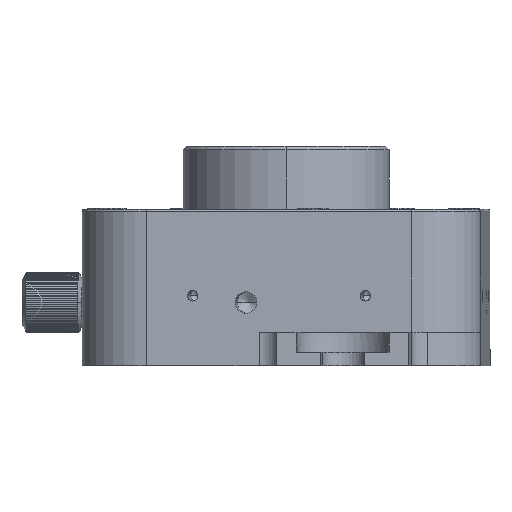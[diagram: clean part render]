
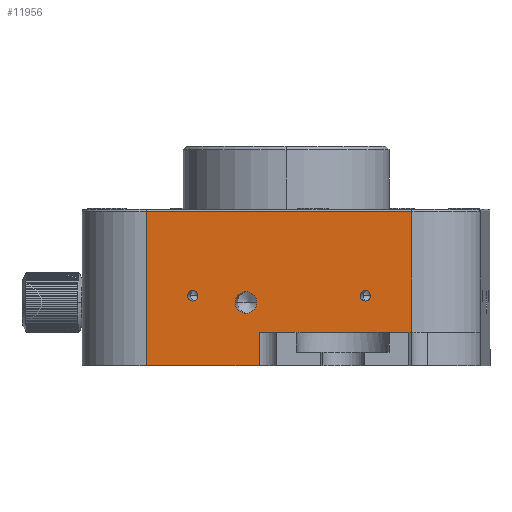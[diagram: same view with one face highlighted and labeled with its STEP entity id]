
A CAD part, left-side view. The second image highlights one B-rep face of the part: STEP entity #11956.
In plain terms, the highlighted planar face has unit normal (-0.999, 0.035, 0).
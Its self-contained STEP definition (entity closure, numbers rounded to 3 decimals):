
#1303 = DIRECTION ( 'NONE',  ( 0.035, 0.999, 0. ) ) ;
#1304 = VECTOR ( 'NONE', #1303, 1000. ) ;
#1305 = CARTESIAN_POINT ( 'NONE',  ( -122.765, 9.527, 9.092 ) ) ;
#1306 = LINE ( 'NONE', #1305, #1304 ) ;
#1307 = CARTESIAN_POINT ( 'NONE',  ( -122.07, 29.515, 9.092 ) ) ;
#1313 = DIRECTION ( 'NONE',  ( -0.035, -0.999, 0. ) ) ;
#1314 = VECTOR ( 'NONE', #1313, 1000. ) ;
#1315 = CARTESIAN_POINT ( 'NONE',  ( -122.765, 9.527, -9.108 ) ) ;
#1316 = LINE ( 'NONE', #1315, #1314 ) ;
#1347 = DIRECTION ( 'NONE',  ( -0.035, -0.999, 0. ) ) ;
#1348 = VECTOR ( 'NONE', #1347, 1000. ) ;
#1349 = CARTESIAN_POINT ( 'NONE',  ( -122.765, 9.527, -9.108 ) ) ;
#1350 = LINE ( 'NONE', #1349, #1348 ) ;
#1351 = CARTESIAN_POINT ( 'NONE',  ( -123.459, -10.46, -9.108 ) ) ;
#1782 = DIRECTION ( 'NONE',  ( 0., 0., 1. ) ) ;
#1783 = VECTOR ( 'NONE', #1782, 1000. ) ;
#1784 = CARTESIAN_POINT ( 'NONE',  ( -123.459, -10.46, -14.108 ) ) ;
#1789 = LINE ( 'NONE', #1784, #1783 ) ;
#2477 = DIRECTION ( 'NONE',  ( 0., 0., -1. ) ) ;
#2478 = VECTOR ( 'NONE', #2477, 1000. ) ;
#2479 = CARTESIAN_POINT ( 'NONE',  ( -122.66, 12.526, -14.108 ) ) ;
#2485 = LINE ( 'NONE', #2479, #2478 ) ;
#2497 = CARTESIAN_POINT ( 'NONE',  ( -122.66, 12.526, -9.108 ) ) ;
#2522 = CARTESIAN_POINT ( 'NONE',  ( -122.66, 12.526, -14.108 ) ) ;
#2531 = CIRCLE ( 'NONE', #2576, 0.783 ) ;
#2538 = CARTESIAN_POINT ( 'NONE',  ( -122.647, 12.904, -4.608 ) ) ;
#2539 = DIRECTION ( 'NONE',  ( -0.035, -0.999, 0. ) ) ;
#2540 = DIRECTION ( 'NONE',  ( 0.999, -0.035, 0. ) ) ;
#2541 = CARTESIAN_POINT ( 'NONE',  ( -122.591, 14.524, -4.608 ) ) ;
#2542 = AXIS2_PLACEMENT_3D ( 'NONE', #2541, #2540, #2539 ) ;
#2543 = CIRCLE ( 'NONE', #2542, 1.621 ) ;
#2573 = DIRECTION ( 'NONE',  ( -0.035, -0.999, 0. ) ) ;
#2574 = DIRECTION ( 'NONE',  ( 0.999, -0.035, 0. ) ) ;
#2575 = CARTESIAN_POINT ( 'NONE',  ( -122.313, 22.52, -3.608 ) ) ;
#2576 = AXIS2_PLACEMENT_3D ( 'NONE', #2575, #2574, #2573 ) ;
#2583 = CARTESIAN_POINT ( 'NONE',  ( -122.535, 16.144, -4.608 ) ) ;
#2614 = CARTESIAN_POINT ( 'NONE',  ( -123.243, -4.248, -3.608 ) ) ;
#2615 = DIRECTION ( 'NONE',  ( -0.035, -0.999, 0. ) ) ;
#2616 = DIRECTION ( 'NONE',  ( 0.999, -0.035, 0. ) ) ;
#2617 = CARTESIAN_POINT ( 'NONE',  ( -123.216, -3.465, -3.608 ) ) ;
#2618 = AXIS2_PLACEMENT_3D ( 'NONE', #2617, #2616, #2615 ) ;
#2619 = CIRCLE ( 'NONE', #2618, 0.784 ) ;
#2620 = CARTESIAN_POINT ( 'NONE',  ( -123.189, -2.682, -3.608 ) ) ;
#2697 = CARTESIAN_POINT ( 'NONE',  ( -122.341, 21.737, -3.608 ) ) ;
#2705 = CARTESIAN_POINT ( 'NONE',  ( -122.286, 23.303, -3.608 ) ) ;
#4562 = CARTESIAN_POINT ( 'NONE',  ( -123.002, 2.684, -9.108 ) ) ;
#4569 = CARTESIAN_POINT ( 'NONE',  ( -123.221, -3.617, -9.108 ) ) ;
#4619 = CARTESIAN_POINT ( 'NONE',  ( -123.459, -10.46, 9.092 ) ) ;
#4959 = DIRECTION ( 'NONE',  ( 0.999, -0.035, 0. ) ) ;
#4960 = AXIS2_PLACEMENT_3D ( 'NONE', #4967, #4959, #5017 ) ;
#4961 = CIRCLE ( 'NONE', #4960, 0.784 ) ;
#4967 = CARTESIAN_POINT ( 'NONE',  ( -123.216, -3.465, -3.608 ) ) ;
#4969 = DIRECTION ( 'NONE',  ( -0.035, -0.999, 0. ) ) ;
#4970 = VECTOR ( 'NONE', #4969, 1000. ) ;
#4971 = CARTESIAN_POINT ( 'NONE',  ( -122.765, 9.527, -9.108 ) ) ;
#4972 = LINE ( 'NONE', #4971, #4970 ) ;
#4979 = DIRECTION ( 'NONE',  ( -0.035, -0.999, 0. ) ) ;
#4980 = DIRECTION ( 'NONE',  ( 0.999, -0.035, 0. ) ) ;
#4981 = AXIS2_PLACEMENT_3D ( 'NONE', #4987, #4980, #4979 ) ;
#4982 = CIRCLE ( 'NONE', #4981, 1.621 ) ;
#4987 = CARTESIAN_POINT ( 'NONE',  ( -122.591, 14.524, -4.608 ) ) ;
#5006 = DIRECTION ( 'NONE',  ( -0.035, -0.999, 0. ) ) ;
#5007 = DIRECTION ( 'NONE',  ( 0.999, -0.035, 0. ) ) ;
#5008 = AXIS2_PLACEMENT_3D ( 'NONE', #5014, #5007, #5006 ) ;
#5009 = CIRCLE ( 'NONE', #5008, 0.783 ) ;
#5014 = CARTESIAN_POINT ( 'NONE',  ( -122.313, 22.52, -3.608 ) ) ;
#5017 = DIRECTION ( 'NONE',  ( -0.035, -0.999, 0. ) ) ;
#8800 = EDGE_CURVE ( 'NONE', #9419, #10482, #1316, .T. ) ;
#8807 = VERTEX_POINT ( 'NONE', #1307 ) ;
#8809 = EDGE_CURVE ( 'NONE', #10510, #8807, #1306, .T. ) ;
#8823 = VERTEX_POINT ( 'NONE', #1351 ) ;
#8825 = EDGE_CURVE ( 'NONE', #10478, #8823, #1350, .T. ) ;
#9055 = EDGE_CURVE ( 'NONE', #8823, #10510, #1789, .T. ) ;
#9419 = VERTEX_POINT ( 'NONE', #2497 ) ;
#9429 = EDGE_CURVE ( 'NONE', #9419, #9436, #2485, .T. ) ;
#9436 = VERTEX_POINT ( 'NONE', #2522 ) ;
#9454 = EDGE_CURVE ( 'NONE', #9455, #9487, #2543, .T. ) ;
#9455 = VERTEX_POINT ( 'NONE', #2538 ) ;
#9463 = EDGE_CURVE ( 'NONE', #9532, #9529, #2531, .T. ) ;
#9487 = VERTEX_POINT ( 'NONE', #2583 ) ;
#9496 = VERTEX_POINT ( 'NONE', #2620 ) ;
#9498 = EDGE_CURVE ( 'NONE', #9499, #9496, #2619, .T. ) ;
#9499 = VERTEX_POINT ( 'NONE', #2614 ) ;
#9529 = VERTEX_POINT ( 'NONE', #2705 ) ;
#9532 = VERTEX_POINT ( 'NONE', #2697 ) ;
#10478 = VERTEX_POINT ( 'NONE', #4569 ) ;
#10482 = VERTEX_POINT ( 'NONE', #4562 ) ;
#10510 = VERTEX_POINT ( 'NONE', #4619 ) ;
#10672 = EDGE_CURVE ( 'NONE', #9487, #9455, #4982, .T. ) ;
#10676 = EDGE_CURVE ( 'NONE', #10482, #10478, #4972, .T. ) ;
#10683 = EDGE_CURVE ( 'NONE', #9496, #9499, #4961, .T. ) ;
#10690 = EDGE_CURVE ( 'NONE', #9529, #9532, #5009, .T. ) ;
#11938 = ORIENTED_EDGE ( 'NONE', *, *, #11939, .T. ) ;
#11939 = EDGE_CURVE ( 'NONE', #11962, #9436, #16583, .T. ) ;
#11940 = ORIENTED_EDGE ( 'NONE', *, *, #9429, .F. ) ;
#11941 = ORIENTED_EDGE ( 'NONE', *, *, #8800, .T. ) ;
#11942 = ORIENTED_EDGE ( 'NONE', *, *, #10676, .T. ) ;
#11943 = ORIENTED_EDGE ( 'NONE', *, *, #8825, .T. ) ;
#11944 = EDGE_LOOP ( 'NONE', ( #11945, #11946 ) ) ;
#11945 = ORIENTED_EDGE ( 'NONE', *, *, #9454, .T. ) ;
#11946 = ORIENTED_EDGE ( 'NONE', *, *, #10672, .T. ) ;
#11947 = EDGE_LOOP ( 'NONE', ( #11948, #12007 ) ) ;
#11948 = ORIENTED_EDGE ( 'NONE', *, *, #9463, .T. ) ;
#11949 = EDGE_LOOP ( 'NONE', ( #12008, #12009 ) ) ;
#11956 = ADVANCED_FACE ( 'NONE', ( #16574, #16573, #16572, #16571 ), #16570, .T. ) ;
#11957 = EDGE_LOOP ( 'NONE', ( #11958, #11959, #11960, #11938, #11940, #11941, #11942, #11943 ) ) ;
#11958 = ORIENTED_EDGE ( 'NONE', *, *, #9055, .T. ) ;
#11959 = ORIENTED_EDGE ( 'NONE', *, *, #8809, .T. ) ;
#11960 = ORIENTED_EDGE ( 'NONE', *, *, #11961, .F. ) ;
#11961 = EDGE_CURVE ( 'NONE', #11962, #8807, #16565, .T. ) ;
#11962 = VERTEX_POINT ( 'NONE', #16561 ) ;
#12007 = ORIENTED_EDGE ( 'NONE', *, *, #10690, .T. ) ;
#12008 = ORIENTED_EDGE ( 'NONE', *, *, #9498, .T. ) ;
#12009 = ORIENTED_EDGE ( 'NONE', *, *, #10683, .T. ) ;
#16561 = CARTESIAN_POINT ( 'NONE',  ( -122.07, 29.515, -14.108 ) ) ;
#16562 = DIRECTION ( 'NONE',  ( 0., 0., 1. ) ) ;
#16563 = VECTOR ( 'NONE', #16562, 1000. ) ;
#16564 = CARTESIAN_POINT ( 'NONE',  ( -122.07, 29.515, -14.108 ) ) ;
#16565 = LINE ( 'NONE', #16564, #16563 ) ;
#16566 = DIRECTION ( 'NONE',  ( -0.035, -0.999, 0. ) ) ;
#16567 = DIRECTION ( 'NONE',  ( -0.999, 0.035, 0. ) ) ;
#16568 = CARTESIAN_POINT ( 'NONE',  ( -122.765, 9.527, -14.108 ) ) ;
#16569 = AXIS2_PLACEMENT_3D ( 'NONE', #16568, #16567, #16566 ) ;
#16570 = PLANE ( 'NONE',  #16569 ) ;
#16571 = FACE_BOUND ( 'NONE', #11949, .T. ) ;
#16572 = FACE_BOUND ( 'NONE', #11947, .T. ) ;
#16573 = FACE_BOUND ( 'NONE', #11944, .T. ) ;
#16574 = FACE_OUTER_BOUND ( 'NONE', #11957, .T. ) ;
#16580 = DIRECTION ( 'NONE',  ( -0.035, -0.999, 0. ) ) ;
#16581 = VECTOR ( 'NONE', #16580, 1000. ) ;
#16582 = CARTESIAN_POINT ( 'NONE',  ( -122.07, 29.515, -14.108 ) ) ;
#16583 = LINE ( 'NONE', #16582, #16581 ) ;
